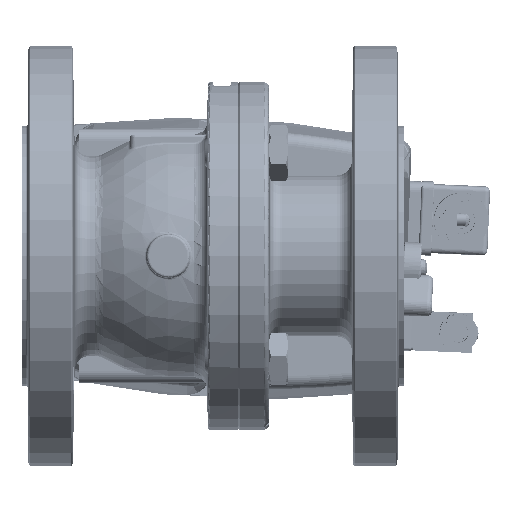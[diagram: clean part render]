
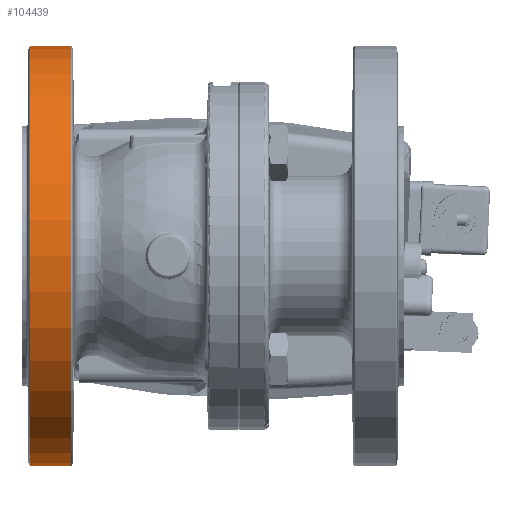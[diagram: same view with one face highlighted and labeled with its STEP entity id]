
A CAD part, front view. The second image highlights one B-rep face of the part: STEP entity #104439.
In plain terms, the highlighted cylindrical face has radius 82.5 mm (diameter 165 mm), a full revolution.
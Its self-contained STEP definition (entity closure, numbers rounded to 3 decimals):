
#104412=CARTESIAN_POINT('',(-38.143,0.0,0.0));
#104413=DIRECTION('',(-1.0,0.0,0.0));
#104414=DIRECTION('',(0.0,0.0,1.0));
#104415=AXIS2_PLACEMENT_3D('',#104412,#104413,#104414);
#104416=CYLINDRICAL_SURFACE('',#104415,82.5);
#104417=CARTESIAN_POINT('',(-38.143,-82.5,0.0));
#104418=VERTEX_POINT('',#104417);
#104419=CARTESIAN_POINT('',(-38.143,0.0,0.0));
#104420=DIRECTION('',(1.0,0.0,0.0));
#104421=DIRECTION('',(0.0,0.0,-1.0));
#104422=AXIS2_PLACEMENT_3D('',#104419,#104420,#104421);
#104423=CIRCLE('',#104422,82.5);
#104424=EDGE_CURVE('',#104418,#104418,#104423,.T.);
#104425=ORIENTED_EDGE('',*,*,#104424,.F.);
#104426=EDGE_LOOP('',(#104425));
#104427=FACE_OUTER_BOUND('',#104426,.T.);
#104428=CARTESIAN_POINT('',(-54.34,0.,82.5));
#104429=VERTEX_POINT('',#104428);
#104430=CARTESIAN_POINT('',(-54.34,0.0,0.0));
#104431=DIRECTION('',(-1.0,0.0,0.0));
#104432=DIRECTION('',(0.0,0.0,1.0));
#104433=AXIS2_PLACEMENT_3D('',#104430,#104431,#104432);
#104434=CIRCLE('',#104433,82.5);
#104435=EDGE_CURVE('',#104429,#104429,#104434,.T.);
#104436=ORIENTED_EDGE('',*,*,#104435,.F.);
#104437=EDGE_LOOP('',(#104436));
#104438=FACE_BOUND('',#104437,.T.);
#104439=ADVANCED_FACE('',(#104427,#104438),#104416,.T.);
